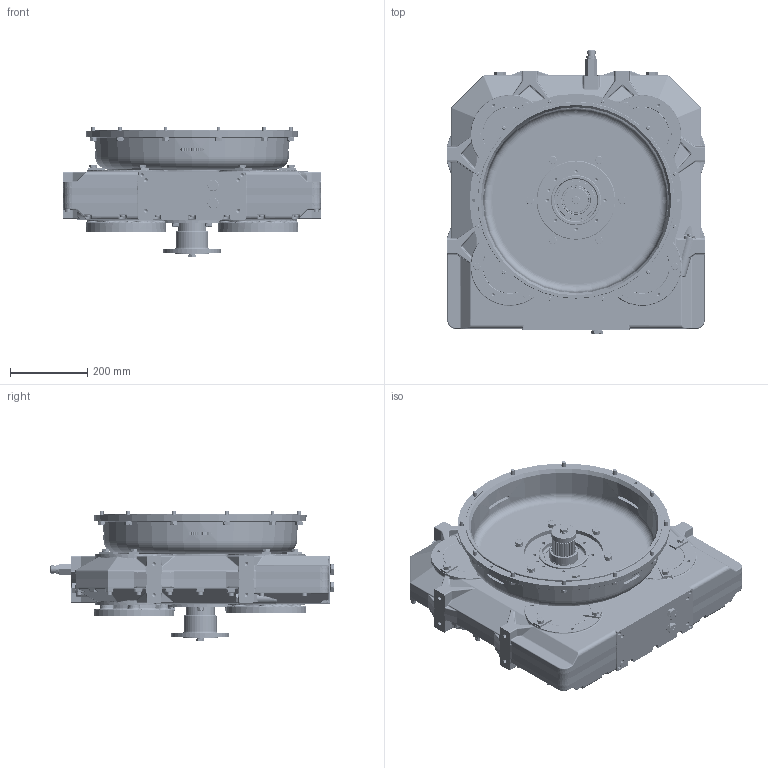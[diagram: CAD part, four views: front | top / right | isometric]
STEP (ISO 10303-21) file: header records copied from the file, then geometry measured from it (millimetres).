
FILE_DESCRIPTION (( 'STEP AP214' ), '1' );
FILE_NAME ('1028864A.STEP', '2015-06-25T08:52:05', ( '' ), ( '' ), 'SwSTEP 2.0', 'SolidWorks 2007', '' );
FILE_SCHEMA (( 'AUTOMOTIVE_DESIGN' ));
Length unit declared in the file: millimetre
Products named in the file (12): IT1042086_rev02-installation; ITam450-006_rev00-installation; ITam450-002_rev00-installation; IT2062146_rev00-installation; ITam232-019_rev00-installation; IT1071101_rev01-installation; ITam230-007_rev00-installation; 1028864A; ITB00710000_rev01-installation; IT2021216_rev03-installation; IT1042064_rev00-installation; IT1042371_rev01-installation_reissued
Assembly tree (19 placements, depth 2):
  1028864A
    IT1042086_rev02-installation
    ITB00710000_rev01-installation
    ITam232-019_rev00-installation  x4
    IT2021216_rev03-installation  x4
    ITam450-006_rev00-installation
    ITam450-002_rev00-installation
    IT1042064_rev00-installation  x2
    IT1042371_rev01-installation_reissued  x2
    IT2062146_rev00-installation
    ITam230-007_rev00-installation
    IT1071101_rev01-installation
Bounding box: 672 x 735.8 x 339.8 mm (x, y, z)
Volume: 10316541.5 mm3; surface area: 4841188.7 mm2
Topology: 120 solids, 210 shells, 11171 faces, 27432 edges, 17112 vertices
Faces by surface type: plane 3878, cylinder 3622, bspline 1562, cone 1108, torus 911, sphere 90
Entity records: 397055 total; most frequent: CARTESIAN_POINT 110282, ORIENTED_EDGE 40504, DIRECTION 39201, EDGE_CURVE 20255, AXIS2_PLACEMENT_3D 15011, VERTEX_POINT 12602, EDGE_LOOP 9384, VECTOR 9179
